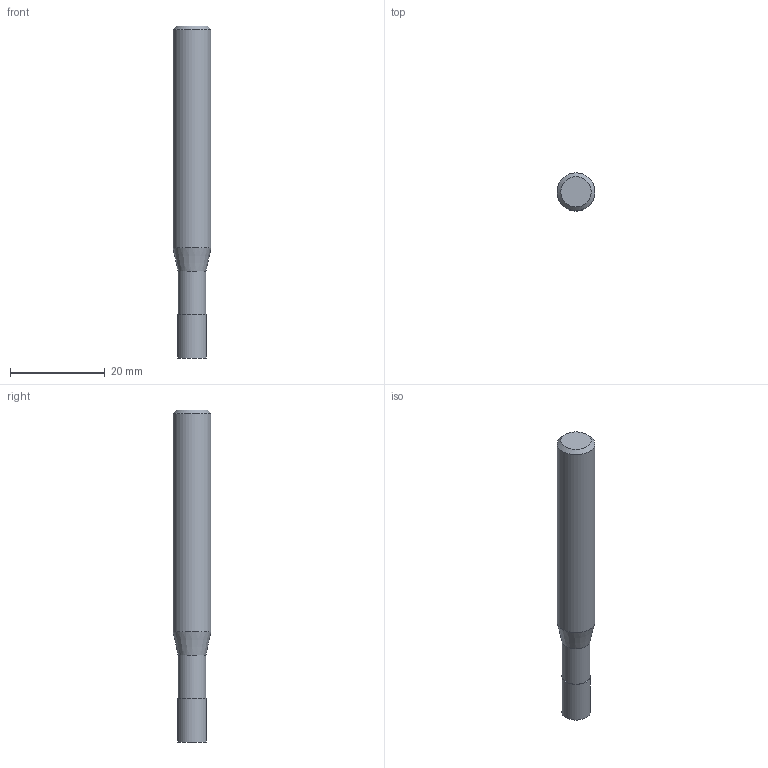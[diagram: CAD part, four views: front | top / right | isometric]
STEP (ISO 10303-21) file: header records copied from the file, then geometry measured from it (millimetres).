
FILE_DESCRIPTION((''),'2;1');
FILE_NAME('C:\Users\nsx150\AppData\Local\Temp\Mastercam 2021\EUJSUNXURU\TEMP.step','2021-04-22T10:28:53',(''),(''),'STEP Write','Mastercam 2021 ... CNC Software, Inc.','');
FILE_SCHEMA(('AUTOMOTIVE_DESIGN'));
Length unit declared in the file: millimetre
Products named in the file (1): None
Bounding box: 8 x 8 x 70 mm (x, y, z)
Volume: 3049.4 mm3; surface area: 1753.9 mm2
Topology: 2 solids, 2 shells, 9 faces, 12 edges, 7 vertices
Faces by surface type: plane 4, cylinder 3, cone 2
Full cylindrical faces by diameter (mm): 5.9 x1, 6.1 x1, 8 x1
Entity records: 211 total; most frequent: DIRECTION 36, CARTESIAN_POINT 25, AXIS2_PLACEMENT_3D 18, ORIENTED_EDGE 14, EDGE_LOOP 14, STYLED_ITEM 12, ADVANCED_FACE 9, FACE_BOUND 8
